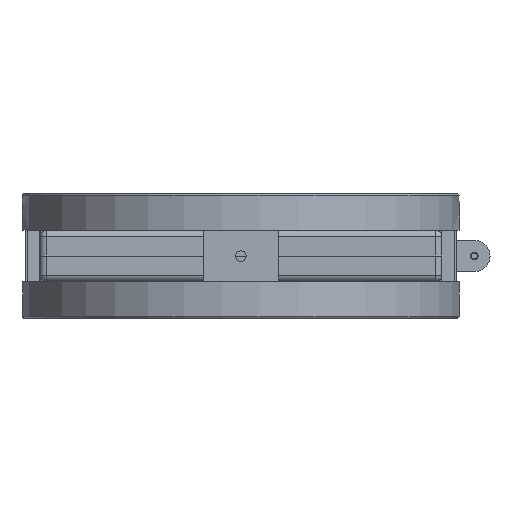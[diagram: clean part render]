
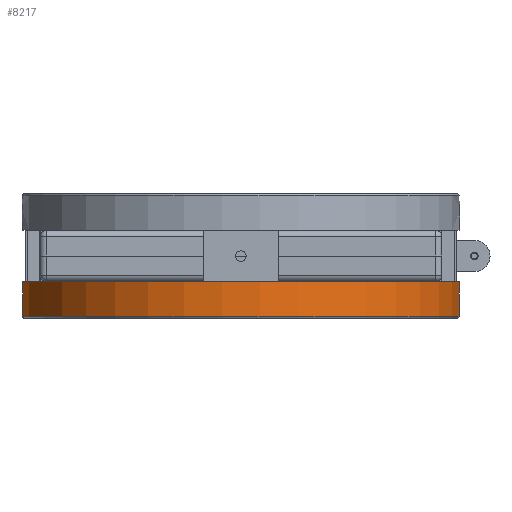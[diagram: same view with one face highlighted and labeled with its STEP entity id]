
A CAD part, front view. The second image highlights one B-rep face of the part: STEP entity #8217.
In plain terms, the highlighted cylindrical face has radius 175 mm (diameter 350 mm), a full revolution.
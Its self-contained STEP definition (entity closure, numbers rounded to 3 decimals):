
#7678=CYLINDRICAL_SURFACE('',#20157,175.);
#8217=ADVANCED_FACE('BCT_REF_50914',(#9188,#9189),#7678,.T.);
#9188=FACE_BOUND('',#10412,.T.);
#9189=FACE_BOUND('',#10413,.T.);
#10412=EDGE_LOOP('',(#12716));
#10413=EDGE_LOOP('',(#12717));
#12716=ORIENTED_EDGE('',*,*,#17530,.F.);
#12717=ORIENTED_EDGE('',*,*,#17529,.T.);
#15826=VERTEX_POINT('',#28337);
#15827=VERTEX_POINT('',#28340);
#17529=EDGE_CURVE('',#15826,#15826,#19095,.T.);
#17530=EDGE_CURVE('',#15827,#15827,#19096,.T.);
#19095=CIRCLE('',#20154,175.);
#19096=CIRCLE('',#20156,175.);
#20154=AXIS2_PLACEMENT_3D('',#28336,#22753,#22754);
#20156=AXIS2_PLACEMENT_3D('',#28339,#22757,#22758);
#20157=AXIS2_PLACEMENT_3D('',#28341,#22759,#22760);
#22753=DIRECTION('',(1.,0.,0.));
#22754=DIRECTION('',(0.,0.966,0.259));
#22757=DIRECTION('',(1.,0.,0.));
#22758=DIRECTION('',(0.,0.966,0.259));
#22759=DIRECTION('',(1.,0.,0.));
#22760=DIRECTION('',(0.,0.966,0.259));
#28336=CARTESIAN_POINT('',(-48.375,0.,526.));
#28337=CARTESIAN_POINT('',(-48.375,169.037,571.293));
#28339=CARTESIAN_POINT('',(-20.575,0.,526.));
#28340=CARTESIAN_POINT('',(-20.575,169.037,571.293));
#28341=CARTESIAN_POINT('',(-16.775,0.,526.));
